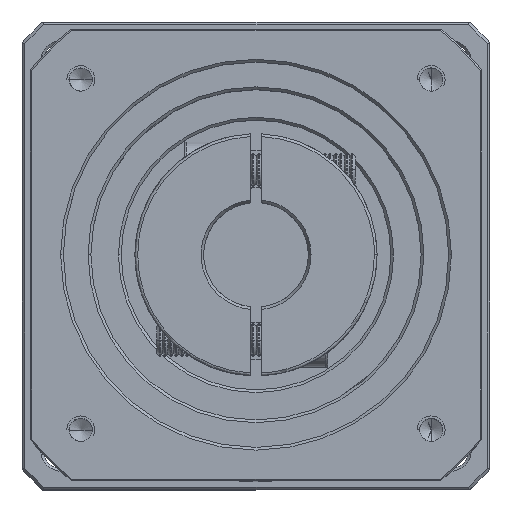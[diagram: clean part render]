
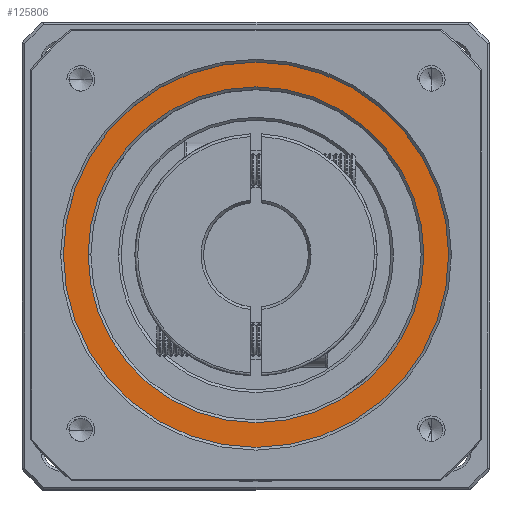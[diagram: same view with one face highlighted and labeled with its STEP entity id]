
A CAD part, top view. The second image highlights one B-rep face of the part: STEP entity #125806.
In plain terms, the highlighted planar face has unit normal (0, 0, 1).
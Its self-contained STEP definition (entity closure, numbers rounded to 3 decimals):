
#3434 = AXIS2_PLACEMENT_3D ( 'NONE', #10894, #30966, #100256 ) ;
#9580 = VERTEX_POINT ( 'NONE', #38087 ) ;
#10894 = CARTESIAN_POINT ( 'NONE',  ( -52.332, 49.407, -5.726 ) ) ;
#14694 = DIRECTION ( 'NONE',  ( 1., 0., 0. ) ) ;
#17468 = CARTESIAN_POINT ( 'NONE',  ( -52.332, 49.407, -5.726 ) ) ;
#18886 = CARTESIAN_POINT ( 'NONE',  ( -82.832, 49.407, -5.726 ) ) ;
#24249 = VERTEX_POINT ( 'NONE', #65014 ) ;
#25929 = VERTEX_POINT ( 'NONE', #73939 ) ;
#26497 = ORIENTED_EDGE ( 'NONE', *, *, #78518, .T. ) ;
#28671 = DIRECTION ( 'NONE',  ( 1., 0., 0. ) ) ;
#30966 = DIRECTION ( 'NONE',  ( 0., 0., -1. ) ) ;
#31984 = CIRCLE ( 'NONE', #78362, 35. ) ;
#36062 = EDGE_LOOP ( 'NONE', ( #26497, #101388 ) ) ;
#37906 = DIRECTION ( 'NONE',  ( 1., 0., 0. ) ) ;
#38087 = CARTESIAN_POINT ( 'NONE',  ( -21.832, 49.407, -5.726 ) ) ;
#39219 = ORIENTED_EDGE ( 'NONE', *, *, #125588, .T. ) ;
#39930 = DIRECTION ( 'NONE',  ( 0., 0., 1. ) ) ;
#57742 = CARTESIAN_POINT ( 'NONE',  ( -52.332, 49.407, -5.726 ) ) ;
#64218 = CARTESIAN_POINT ( 'NONE',  ( -52.332, 49.407, -5.726 ) ) ;
#64930 = AXIS2_PLACEMENT_3D ( 'NONE', #57742, #98827, #28671 ) ;
#65014 = CARTESIAN_POINT ( 'NONE',  ( -17.332, 49.407, -5.726 ) ) ;
#72098 = ORIENTED_EDGE ( 'NONE', *, *, #92126, .T. ) ;
#73939 = CARTESIAN_POINT ( 'NONE',  ( -87.332, 49.407, -5.726 ) ) ;
#74132 = DIRECTION ( 'NONE',  ( 0., 0., 1. ) ) ;
#78362 = AXIS2_PLACEMENT_3D ( 'NONE', #88382, #39930, #87543 ) ;
#78518 = EDGE_CURVE ( 'NONE', #24249, #25929, #83819, .T. ) ;
#78588 = CIRCLE ( 'NONE', #64930, 30.5 ) ;
#83819 = CIRCLE ( 'NONE', #112987, 35. ) ;
#87064 = FACE_BOUND ( 'NONE', #94441, .T. ) ;
#87543 = DIRECTION ( 'NONE',  ( 1., 0., 0. ) ) ;
#88382 = CARTESIAN_POINT ( 'NONE',  ( -52.332, 49.407, -5.726 ) ) ;
#92126 = EDGE_CURVE ( 'NONE', #109635, #9580, #78588, .T. ) ;
#94441 = EDGE_LOOP ( 'NONE', ( #39219, #72098 ) ) ;
#98827 = DIRECTION ( 'NONE',  ( 0., 0., -1. ) ) ;
#100256 = DIRECTION ( 'NONE',  ( 1., 0., 0. ) ) ;
#101388 = ORIENTED_EDGE ( 'NONE', *, *, #115177, .T. ) ;
#105890 = PLANE ( 'NONE',  #125714 ) ;
#108813 = CIRCLE ( 'NONE', #3434, 30.5 ) ;
#109635 = VERTEX_POINT ( 'NONE', #18886 ) ;
#112987 = AXIS2_PLACEMENT_3D ( 'NONE', #64218, #74132, #14694 ) ;
#115177 = EDGE_CURVE ( 'NONE', #25929, #24249, #31984, .T. ) ;
#125588 = EDGE_CURVE ( 'NONE', #9580, #109635, #108813, .T. ) ;
#125714 = AXIS2_PLACEMENT_3D ( 'NONE', #17468, #126807, #37906 ) ;
#125806 = ADVANCED_FACE ( 'NONE', ( #127489, #87064 ), #105890, .T. ) ;
#126807 = DIRECTION ( 'NONE',  ( 0., 0., 1. ) ) ;
#127489 = FACE_OUTER_BOUND ( 'NONE', #36062, .T. ) ;
